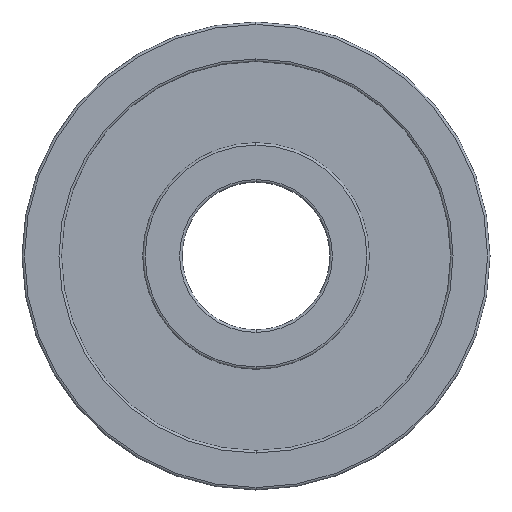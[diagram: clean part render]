
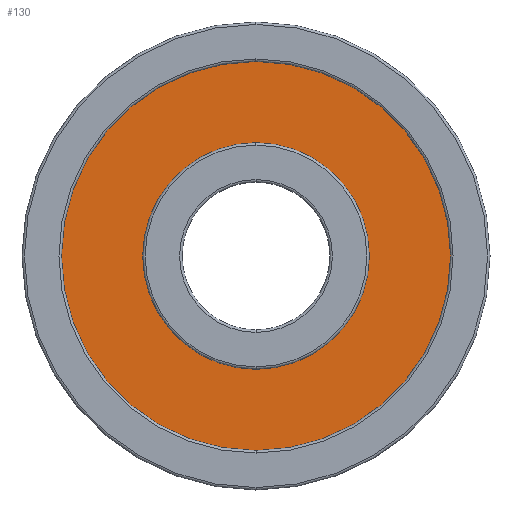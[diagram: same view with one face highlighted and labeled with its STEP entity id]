
A CAD part, left-side view. The second image highlights one B-rep face of the part: STEP entity #130.
In plain terms, the highlighted planar face has unit normal (-1, 0, 0).
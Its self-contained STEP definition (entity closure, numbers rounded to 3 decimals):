
#128 = EDGE_CURVE ( 'NONE', #298, #318, #584, .T. ) ;
#130 = ADVANCED_FACE ( 'NONE', ( #577, #575 ), #576, .F. ) ;
#132 = ORIENTED_EDGE ( 'NONE', *, *, #311, .F. ) ;
#133 = EDGE_LOOP ( 'NONE', ( #134, #136 ) ) ;
#134 = ORIENTED_EDGE ( 'NONE', *, *, #128, .T. ) ;
#136 = ORIENTED_EDGE ( 'NONE', *, *, #302, .T. ) ;
#145 = EDGE_CURVE ( 'NONE', #231, #310, #617, .T. ) ;
#147 = ORIENTED_EDGE ( 'NONE', *, *, #145, .F. ) ;
#148 = EDGE_LOOP ( 'NONE', ( #132, #147 ) ) ;
#231 = VERTEX_POINT ( 'NONE', #683 ) ;
#298 = VERTEX_POINT ( 'NONE', #810 ) ;
#302 = EDGE_CURVE ( 'NONE', #318, #298, #815, .T. ) ;
#310 = VERTEX_POINT ( 'NONE', #852 ) ;
#311 = EDGE_CURVE ( 'NONE', #310, #231, #843, .T. ) ;
#318 = VERTEX_POINT ( 'NONE', #831 ) ;
#563 = DIRECTION ( 'NONE',  ( 0., 0., -1. ) ) ;
#564 = DIRECTION ( 'NONE',  ( 1., 0., 0. ) ) ;
#565 = CARTESIAN_POINT ( 'NONE',  ( 0.3, 7.9, 0. ) ) ;
#566 = AXIS2_PLACEMENT_3D ( 'NONE', #565, #564, #563 ) ;
#572 = DIRECTION ( 'NONE',  ( 0., 0., 1. ) ) ;
#573 = DIRECTION ( 'NONE',  ( -1., 0., 0. ) ) ;
#574 = CARTESIAN_POINT ( 'NONE',  ( 0.3, 0., 0. ) ) ;
#575 = FACE_OUTER_BOUND ( 'NONE', #133, .T. ) ;
#576 = PLANE ( 'NONE',  #566 ) ;
#577 = FACE_BOUND ( 'NONE', #148, .T. ) ;
#580 = AXIS2_PLACEMENT_3D ( 'NONE', #574, #573, #572 ) ;
#584 = CIRCLE ( 'NONE', #580, 7.9 ) ;
#598 = DIRECTION ( 'NONE',  ( 0., 0., 1. ) ) ;
#599 = DIRECTION ( 'NONE',  ( -1., 0., 0. ) ) ;
#600 = CARTESIAN_POINT ( 'NONE',  ( 0.3, 0., 0. ) ) ;
#601 = AXIS2_PLACEMENT_3D ( 'NONE', #600, #599, #598 ) ;
#617 = CIRCLE ( 'NONE', #601, 4.6 ) ;
#683 = CARTESIAN_POINT ( 'NONE',  ( 0.3, 0., -4.6 ) ) ;
#800 = DIRECTION ( 'NONE',  ( 0., 0., 1. ) ) ;
#801 = DIRECTION ( 'NONE',  ( -1., 0., 0. ) ) ;
#810 = CARTESIAN_POINT ( 'NONE',  ( 0.3, 0., 7.9 ) ) ;
#812 = AXIS2_PLACEMENT_3D ( 'NONE', #816, #801, #800 ) ;
#815 = CIRCLE ( 'NONE', #812, 7.9 ) ;
#816 = CARTESIAN_POINT ( 'NONE',  ( 0.3, 0., 0. ) ) ;
#828 = CARTESIAN_POINT ( 'NONE',  ( 0.3, 0., 0. ) ) ;
#831 = CARTESIAN_POINT ( 'NONE',  ( 0.3, 0., -7.9 ) ) ;
#835 = AXIS2_PLACEMENT_3D ( 'NONE', #828, #837, #886 ) ;
#837 = DIRECTION ( 'NONE',  ( -1., 0., 0. ) ) ;
#843 = CIRCLE ( 'NONE', #835, 4.6 ) ;
#852 = CARTESIAN_POINT ( 'NONE',  ( 0.3, 0., 4.6 ) ) ;
#886 = DIRECTION ( 'NONE',  ( 0., 0., 1. ) ) ;
